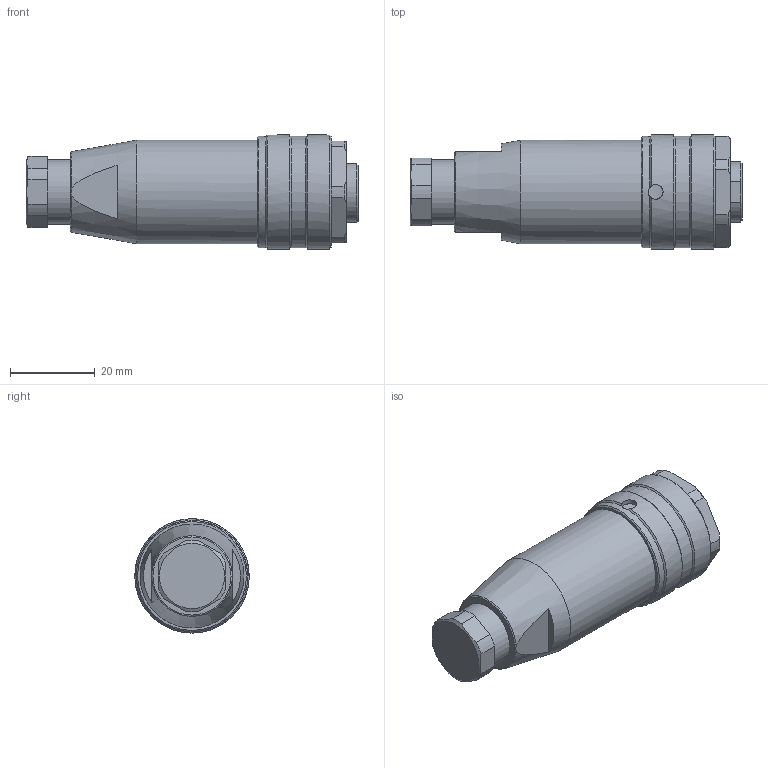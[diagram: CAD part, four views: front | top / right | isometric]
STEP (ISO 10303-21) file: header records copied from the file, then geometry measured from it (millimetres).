
FILE_DESCRIPTION(/* description */ (''),/* implementation_level */ '2;1');
FILE_NAME(/* name */ '99 2444 12 05 001_00.stp',/* time_stamp */ '2013-10-17T14:49:08+02:00',/* author */ (''),/* organization */ (''),/* preprocessor_version */ 'ST-DEVELOPER v14',/* originating_system */ 'SIEMENS PLM Software NX 8.0',/* authorisation */ '');
FILE_SCHEMA (('AUTOMOTIVE_DESIGN { 1 0 10303 214 3 1 1 1 }'));
Length unit declared in the file: millimetre
Products named in the file (1): cerl0F444C33tade
Bounding box: 78.4 x 27 x 27 mm (x, y, z)
Volume: 31264.8 mm3; surface area: 8732.7 mm2
Topology: 1 solids, 1 shells, 137 faces, 322 edges, 205 vertices
Faces by surface type: plane 53, cylinder 40, cone 38, torus 6
Full cylindrical faces by diameter (mm): 2.1 x5, 2.55 x5, 3.4 x5, 3.5 x1, 14.3 x1, 15.2 x1, 17.8 x1, 20.498 x1, 24.2 x1, 24.5 x1, 26.3 x2, 27 x2
Entity records: 3557 total; most frequent: CARTESIAN_POINT 812, DIRECTION 589, ORIENTED_EDGE 454, AXIS2_PLACEMENT_3D 260, EDGE_CURVE 227, EDGE_LOOP 213, VERTEX_POINT 175, FACE_BOUND 160
